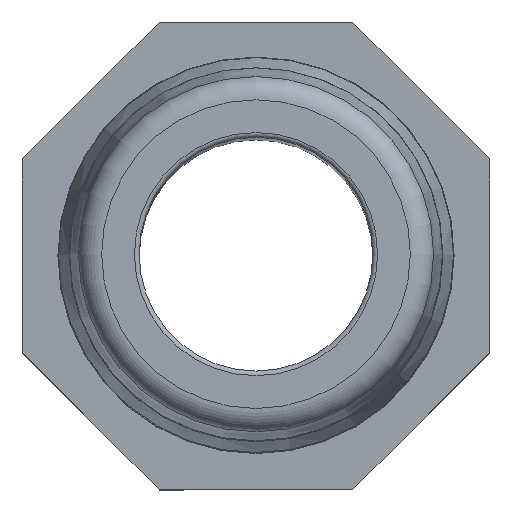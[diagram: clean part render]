
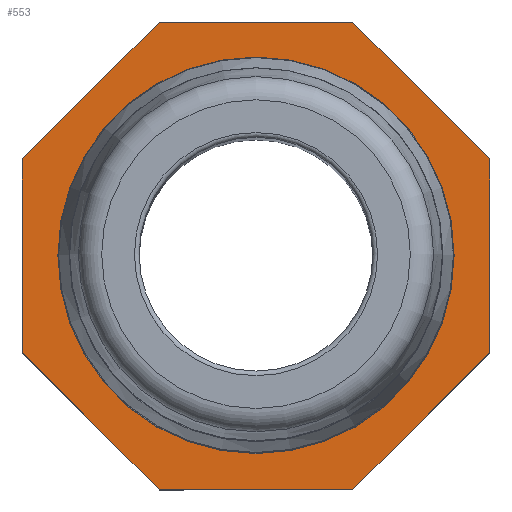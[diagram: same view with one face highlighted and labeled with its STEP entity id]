
A CAD part, top view. The second image highlights one B-rep face of the part: STEP entity #553.
In plain terms, the highlighted planar face has unit normal (0, 0, 1).
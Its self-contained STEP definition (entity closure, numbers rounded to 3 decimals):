
#15=LINE('',#927,#39);
#16=LINE('',#929,#40);
#17=LINE('',#931,#41);
#18=LINE('',#933,#42);
#19=LINE('',#935,#43);
#20=LINE('',#937,#44);
#21=LINE('',#939,#45);
#22=LINE('',#940,#46);
#39=VECTOR('',#780,8.284);
#40=VECTOR('',#781,8.284);
#41=VECTOR('',#782,8.284);
#42=VECTOR('',#783,8.284);
#43=VECTOR('',#784,8.284);
#44=VECTOR('',#785,8.284);
#45=VECTOR('',#786,8.284);
#46=VECTOR('',#787,8.284);
#73=PLANE('',#632);
#124=FACE_BOUND('',#236,.T.);
#159=FACE_OUTER_BOUND('',#235,.T.);
#235=EDGE_LOOP('',(#455,#456,#457,#458,#459,#460,#461,#462));
#236=EDGE_LOOP('',(#463));
#266=CIRCLE('',#603,8.);
#300=VERTEX_POINT('',#880);
#315=VERTEX_POINT('',#925);
#316=VERTEX_POINT('',#926);
#317=VERTEX_POINT('',#928);
#318=VERTEX_POINT('',#930);
#319=VERTEX_POINT('',#932);
#320=VERTEX_POINT('',#934);
#321=VERTEX_POINT('',#936);
#322=VERTEX_POINT('',#938);
#350=EDGE_CURVE('',#300,#300,#266,.T.);
#365=EDGE_CURVE('',#315,#316,#15,.T.);
#366=EDGE_CURVE('',#316,#317,#16,.T.);
#367=EDGE_CURVE('',#317,#318,#17,.T.);
#368=EDGE_CURVE('',#318,#319,#18,.T.);
#369=EDGE_CURVE('',#319,#320,#19,.T.);
#370=EDGE_CURVE('',#320,#321,#20,.T.);
#371=EDGE_CURVE('',#321,#322,#21,.T.);
#372=EDGE_CURVE('',#322,#315,#22,.T.);
#455=ORIENTED_EDGE('',*,*,#365,.T.);
#456=ORIENTED_EDGE('',*,*,#366,.T.);
#457=ORIENTED_EDGE('',*,*,#367,.T.);
#458=ORIENTED_EDGE('',*,*,#368,.T.);
#459=ORIENTED_EDGE('',*,*,#369,.T.);
#460=ORIENTED_EDGE('',*,*,#370,.T.);
#461=ORIENTED_EDGE('',*,*,#371,.T.);
#462=ORIENTED_EDGE('',*,*,#372,.T.);
#463=ORIENTED_EDGE('',*,*,#350,.F.);
#553=ADVANCED_FACE('',(#159,#124),#73,.T.);
#603=AXIS2_PLACEMENT_3D('',#881,#720,#721);
#632=AXIS2_PLACEMENT_3D('',#924,#778,#779);
#720=DIRECTION('center_axis',(0.,0.,1.));
#721=DIRECTION('ref_axis',(1.,0.,0.));
#778=DIRECTION('center_axis',(0.,0.,1.));
#779=DIRECTION('ref_axis',(1.,0.,0.));
#780=DIRECTION('',(0.,-1.,0.));
#781=DIRECTION('',(0.707,-0.707,0.));
#782=DIRECTION('',(1.,0.,0.));
#783=DIRECTION('',(0.707,0.707,0.));
#784=DIRECTION('',(0.,1.,0.));
#785=DIRECTION('',(-0.707,0.707,0.));
#786=DIRECTION('',(-1.,0.,0.));
#787=DIRECTION('',(-0.707,-0.707,0.));
#880=CARTESIAN_POINT('',(-8.,0.,26.));
#881=CARTESIAN_POINT('Origin',(0.,0.,26.));
#924=CARTESIAN_POINT('Origin',(0.,0.,26.));
#925=CARTESIAN_POINT('',(-10.,4.142,26.));
#926=CARTESIAN_POINT('',(-10.,-4.142,26.));
#927=CARTESIAN_POINT('',(-10.,4.142,26.));
#928=CARTESIAN_POINT('',(-4.142,-10.,26.));
#929=CARTESIAN_POINT('',(-10.,-4.142,26.));
#930=CARTESIAN_POINT('',(4.142,-10.,26.));
#931=CARTESIAN_POINT('',(-4.142,-10.,26.));
#932=CARTESIAN_POINT('',(10.,-4.142,26.));
#933=CARTESIAN_POINT('',(4.142,-10.,26.));
#934=CARTESIAN_POINT('',(10.,4.142,26.));
#935=CARTESIAN_POINT('',(10.,-4.142,26.));
#936=CARTESIAN_POINT('',(4.142,10.,26.));
#937=CARTESIAN_POINT('',(10.,4.142,26.));
#938=CARTESIAN_POINT('',(-4.142,10.,26.));
#939=CARTESIAN_POINT('',(4.142,10.,26.));
#940=CARTESIAN_POINT('',(-4.142,10.,26.));
